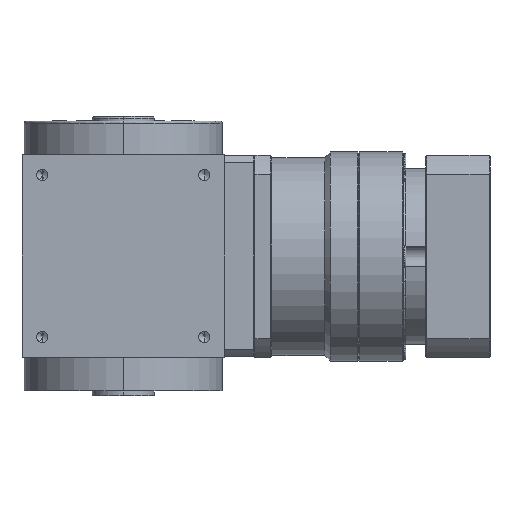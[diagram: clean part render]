
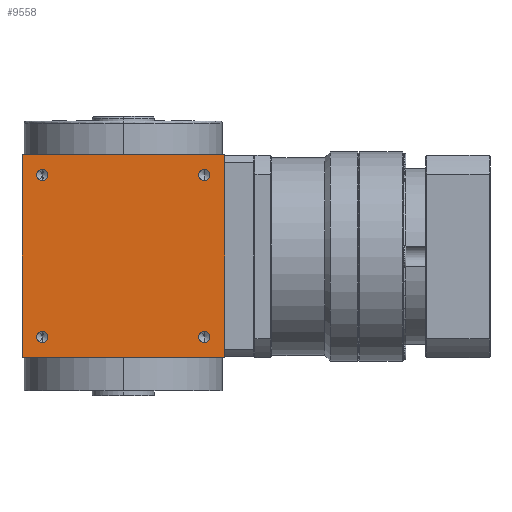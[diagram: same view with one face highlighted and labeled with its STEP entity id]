
A CAD part, left-side view. The second image highlights one B-rep face of the part: STEP entity #9558.
In plain terms, the highlighted planar face has unit normal (-1, 0, 0).
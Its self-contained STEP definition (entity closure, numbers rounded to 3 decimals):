
#1062 = DIRECTION ( 'NONE',  ( -1., 0., 0. ) ) ;
#1387 = EDGE_LOOP ( 'NONE', ( #27643, #33631 ) ) ;
#1942 = VECTOR ( 'NONE', #26895, 1000. ) ;
#3088 = DIRECTION ( 'NONE',  ( 1., 0., 0. ) ) ;
#3314 = EDGE_CURVE ( 'NONE', #29865, #20854, #5694, .T. ) ;
#3591 = CARTESIAN_POINT ( 'NONE',  ( -45., 0., 45. ) ) ;
#3784 = FACE_OUTER_BOUND ( 'NONE', #11642, .T. ) ;
#3977 = CARTESIAN_POINT ( 'NONE',  ( -45., -36., -36. ) ) ;
#4169 = EDGE_CURVE ( 'NONE', #12947, #7415, #5776, .T. ) ;
#5048 = EDGE_CURVE ( 'NONE', #5720, #13818, #7429, .T. ) ;
#5116 = ORIENTED_EDGE ( 'NONE', *, *, #4169, .T. ) ;
#5198 = DIRECTION ( 'NONE',  ( 0., 0., 1. ) ) ;
#5694 = CIRCLE ( 'NONE', #26361, 2.5 ) ;
#5720 = VERTEX_POINT ( 'NONE', #24540 ) ;
#5776 = LINE ( 'NONE', #8337, #1942 ) ;
#6180 = DIRECTION ( 'NONE',  ( 0., 0., 1. ) ) ;
#6365 = AXIS2_PLACEMENT_3D ( 'NONE', #18159, #28518, #5198 ) ;
#6518 = DIRECTION ( 'NONE',  ( 0., 0., 1. ) ) ;
#6676 = DIRECTION ( 'NONE',  ( 1., 0., 0. ) ) ;
#6768 = DIRECTION ( 'NONE',  ( 1., 0., 0. ) ) ;
#6872 = DIRECTION ( 'NONE',  ( 1., 0., 0. ) ) ;
#7415 = VERTEX_POINT ( 'NONE', #14413 ) ;
#7429 = CIRCLE ( 'NONE', #6365, 2.5 ) ;
#7595 = ORIENTED_EDGE ( 'NONE', *, *, #20161, .F. ) ;
#8143 = CARTESIAN_POINT ( 'NONE',  ( -45., 36., -33.5 ) ) ;
#8337 = CARTESIAN_POINT ( 'NONE',  ( -45., 0., -45. ) ) ;
#8765 = AXIS2_PLACEMENT_3D ( 'NONE', #21672, #22002, #6180 ) ;
#8806 = EDGE_CURVE ( 'NONE', #14630, #7415, #23260, .T. ) ;
#9221 = DIRECTION ( 'NONE',  ( 0., -1., 0. ) ) ;
#9558 = ADVANCED_FACE ( 'NONE', ( #3784, #19123, #14515, #16566, #16906 ), #11296, .T. ) ;
#9574 = EDGE_CURVE ( 'NONE', #20854, #29865, #23446, .T. ) ;
#9729 = CARTESIAN_POINT ( 'NONE',  ( -45., 36., 33.5 ) ) ;
#9894 = CARTESIAN_POINT ( 'NONE',  ( -45., 45., 45. ) ) ;
#9921 = CIRCLE ( 'NONE', #28939, 2.5 ) ;
#9992 = DIRECTION ( 'NONE',  ( 0., 0., -1. ) ) ;
#10574 = CARTESIAN_POINT ( 'NONE',  ( -45., -36., 38.5 ) ) ;
#10840 = CIRCLE ( 'NONE', #15189, 2.5 ) ;
#11296 = PLANE ( 'NONE',  #31067 ) ;
#11405 = EDGE_LOOP ( 'NONE', ( #22896, #15295 ) ) ;
#11642 = EDGE_LOOP ( 'NONE', ( #7595, #5116, #14280, #22050 ) ) ;
#12694 = ORIENTED_EDGE ( 'NONE', *, *, #13585, .T. ) ;
#12947 = VERTEX_POINT ( 'NONE', #30730 ) ;
#12976 = VECTOR ( 'NONE', #6518, 1000. ) ;
#13585 = EDGE_CURVE ( 'NONE', #33502, #15058, #9921, .T. ) ;
#13818 = VERTEX_POINT ( 'NONE', #22994 ) ;
#14186 = DIRECTION ( 'NONE',  ( 0., -1., 0. ) ) ;
#14280 = ORIENTED_EDGE ( 'NONE', *, *, #8806, .F. ) ;
#14382 = EDGE_CURVE ( 'NONE', #15058, #33502, #14775, .T. ) ;
#14413 = CARTESIAN_POINT ( 'NONE',  ( -45., -45., -45. ) ) ;
#14515 = FACE_BOUND ( 'NONE', #11405, .T. ) ;
#14610 = DIRECTION ( 'NONE',  ( 0., 0., 1. ) ) ;
#14630 = VERTEX_POINT ( 'NONE', #23038 ) ;
#14775 = CIRCLE ( 'NONE', #23471, 2.5 ) ;
#14945 = CARTESIAN_POINT ( 'NONE',  ( -45., -36., 36. ) ) ;
#15058 = VERTEX_POINT ( 'NONE', #9729 ) ;
#15189 = AXIS2_PLACEMENT_3D ( 'NONE', #14945, #6768, #14610 ) ;
#15295 = ORIENTED_EDGE ( 'NONE', *, *, #9574, .T. ) ;
#15564 = ORIENTED_EDGE ( 'NONE', *, *, #29048, .T. ) ;
#15924 = CARTESIAN_POINT ( 'NONE',  ( -45., 36., -36. ) ) ;
#16401 = CARTESIAN_POINT ( 'NONE',  ( -45., 45., -45. ) ) ;
#16518 = CARTESIAN_POINT ( 'NONE',  ( -45., 36., 38.5 ) ) ;
#16566 = FACE_BOUND ( 'NONE', #29652, .T. ) ;
#16906 = FACE_BOUND ( 'NONE', #1387, .T. ) ;
#17069 = CARTESIAN_POINT ( 'NONE',  ( -45., 45., -45. ) ) ;
#17610 = DIRECTION ( 'NONE',  ( 0., 0., 1. ) ) ;
#17796 = ORIENTED_EDGE ( 'NONE', *, *, #14382, .T. ) ;
#18159 = CARTESIAN_POINT ( 'NONE',  ( -45., -36., -36. ) ) ;
#18319 = CARTESIAN_POINT ( 'NONE',  ( -45., 36., 36. ) ) ;
#18547 = VECTOR ( 'NONE', #9992, 1000. ) ;
#19123 = FACE_BOUND ( 'NONE', #26781, .T. ) ;
#19423 = EDGE_CURVE ( 'NONE', #32303, #32030, #10840, .T. ) ;
#20161 = EDGE_CURVE ( 'NONE', #12947, #28154, #29834, .T. ) ;
#20854 = VERTEX_POINT ( 'NONE', #24628 ) ;
#21013 = VECTOR ( 'NONE', #9221, 1000. ) ;
#21641 = EDGE_CURVE ( 'NONE', #32030, #32303, #31680, .T. ) ;
#21672 = CARTESIAN_POINT ( 'NONE',  ( -45., 36., -36. ) ) ;
#22002 = DIRECTION ( 'NONE',  ( 1., 0., 0. ) ) ;
#22050 = ORIENTED_EDGE ( 'NONE', *, *, #28090, .F. ) ;
#22896 = ORIENTED_EDGE ( 'NONE', *, *, #3314, .T. ) ;
#22994 = CARTESIAN_POINT ( 'NONE',  ( -45., -36., -33.5 ) ) ;
#22997 = AXIS2_PLACEMENT_3D ( 'NONE', #24389, #6676, #27117 ) ;
#23038 = CARTESIAN_POINT ( 'NONE',  ( -45., -45., 45. ) ) ;
#23260 = LINE ( 'NONE', #33623, #18547 ) ;
#23446 = CIRCLE ( 'NONE', #8765, 2.5 ) ;
#23471 = AXIS2_PLACEMENT_3D ( 'NONE', #18319, #24081, #26649 ) ;
#24081 = DIRECTION ( 'NONE',  ( 1., 0., 0. ) ) ;
#24389 = CARTESIAN_POINT ( 'NONE',  ( -45., -36., 36. ) ) ;
#24540 = CARTESIAN_POINT ( 'NONE',  ( -45., -36., -38.5 ) ) ;
#24628 = CARTESIAN_POINT ( 'NONE',  ( -45., 36., -38.5 ) ) ;
#24869 = LINE ( 'NONE', #3591, #21013 ) ;
#26361 = AXIS2_PLACEMENT_3D ( 'NONE', #15924, #28679, #30443 ) ;
#26649 = DIRECTION ( 'NONE',  ( 0., 0., 1. ) ) ;
#26781 = EDGE_LOOP ( 'NONE', ( #15564, #29507 ) ) ;
#26895 = DIRECTION ( 'NONE',  ( 0., -1., 0. ) ) ;
#27032 = CIRCLE ( 'NONE', #28677, 2.5 ) ;
#27117 = DIRECTION ( 'NONE',  ( 0., 0., 1. ) ) ;
#27643 = ORIENTED_EDGE ( 'NONE', *, *, #19423, .T. ) ;
#27974 = CARTESIAN_POINT ( 'NONE',  ( -45., -36., 33.5 ) ) ;
#28090 = EDGE_CURVE ( 'NONE', #28154, #14630, #24869, .T. ) ;
#28154 = VERTEX_POINT ( 'NONE', #9894 ) ;
#28518 = DIRECTION ( 'NONE',  ( 1., 0., 0. ) ) ;
#28677 = AXIS2_PLACEMENT_3D ( 'NONE', #3977, #6872, #17610 ) ;
#28679 = DIRECTION ( 'NONE',  ( 1., 0., 0. ) ) ;
#28939 = AXIS2_PLACEMENT_3D ( 'NONE', #31684, #3088, #28973 ) ;
#28973 = DIRECTION ( 'NONE',  ( 0., 0., 1. ) ) ;
#29048 = EDGE_CURVE ( 'NONE', #13818, #5720, #27032, .T. ) ;
#29507 = ORIENTED_EDGE ( 'NONE', *, *, #5048, .T. ) ;
#29652 = EDGE_LOOP ( 'NONE', ( #12694, #17796 ) ) ;
#29834 = LINE ( 'NONE', #17069, #12976 ) ;
#29865 = VERTEX_POINT ( 'NONE', #8143 ) ;
#30443 = DIRECTION ( 'NONE',  ( 0., 0., 1. ) ) ;
#30730 = CARTESIAN_POINT ( 'NONE',  ( -45., 45., -45. ) ) ;
#31067 = AXIS2_PLACEMENT_3D ( 'NONE', #16401, #1062, #14186 ) ;
#31680 = CIRCLE ( 'NONE', #22997, 2.5 ) ;
#31684 = CARTESIAN_POINT ( 'NONE',  ( -45., 36., 36. ) ) ;
#32030 = VERTEX_POINT ( 'NONE', #27974 ) ;
#32303 = VERTEX_POINT ( 'NONE', #10574 ) ;
#33502 = VERTEX_POINT ( 'NONE', #16518 ) ;
#33623 = CARTESIAN_POINT ( 'NONE',  ( -45., -45., -45. ) ) ;
#33631 = ORIENTED_EDGE ( 'NONE', *, *, #21641, .T. ) ;
